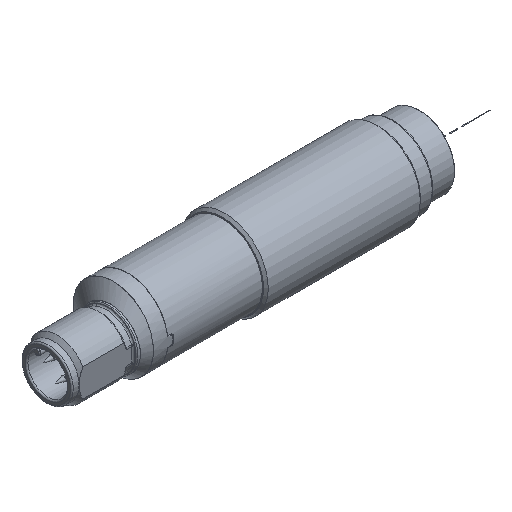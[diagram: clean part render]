
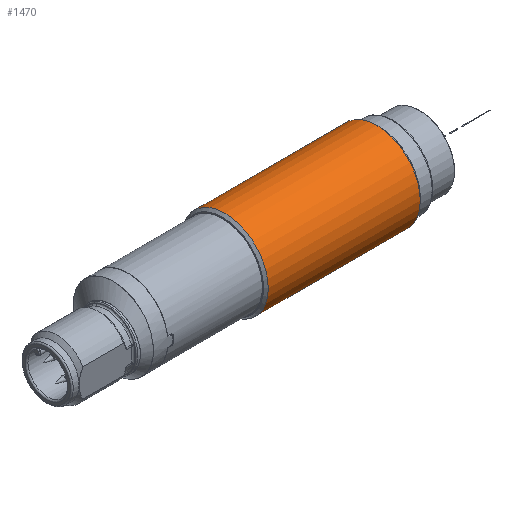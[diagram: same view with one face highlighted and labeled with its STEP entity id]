
A CAD part, isometric view. The second image highlights one B-rep face of the part: STEP entity #1470.
In plain terms, the highlighted cylindrical face has radius 9 mm (diameter 18 mm), a full revolution.
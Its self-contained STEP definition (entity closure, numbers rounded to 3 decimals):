
#1470=ADVANCED_FACE('',(#1564,#1565),#1523,.T.);
#1523=CYLINDRICAL_SURFACE('',#3040,9.);
#1564=FACE_BOUND('',#1690,.T.);
#1565=FACE_BOUND('',#1691,.T.);
#1690=EDGE_LOOP('',(#2043));
#1691=EDGE_LOOP('',(#2044));
#2043=ORIENTED_EDGE('',*,*,#2748,.T.);
#2044=ORIENTED_EDGE('',*,*,#2749,.T.);
#2397=VERTEX_POINT('',#5708);
#2398=VERTEX_POINT('',#5710);
#2748=EDGE_CURVE('',#2397,#2397,#2868,.T.);
#2749=EDGE_CURVE('',#2398,#2398,#2869,.T.);
#2868=CIRCLE('',#3038,9.);
#2869=CIRCLE('',#3039,9.);
#3038=AXIS2_PLACEMENT_3D('',#5707,#3467,#3468);
#3039=AXIS2_PLACEMENT_3D('',#5709,#3469,#3470);
#3040=AXIS2_PLACEMENT_3D('',#5711,#3471,#3472);
#3467=DIRECTION('',(1.,0.,0.));
#3468=DIRECTION('',(0.,0.,1.));
#3469=DIRECTION('',(-1.,0.,0.));
#3470=DIRECTION('',(0.,0.,1.));
#3471=DIRECTION('',(1.,0.,0.));
#3472=DIRECTION('',(0.,0.,-1.));
#5707=CARTESIAN_POINT('',(-11.544,88.595,-0.2));
#5708=CARTESIAN_POINT('',(-11.544,88.595,8.8));
#5709=CARTESIAN_POINT('',(19.956,88.595,-0.2));
#5710=CARTESIAN_POINT('',(19.956,88.595,8.8));
#5711=CARTESIAN_POINT('',(-12.044,88.595,-0.2));
